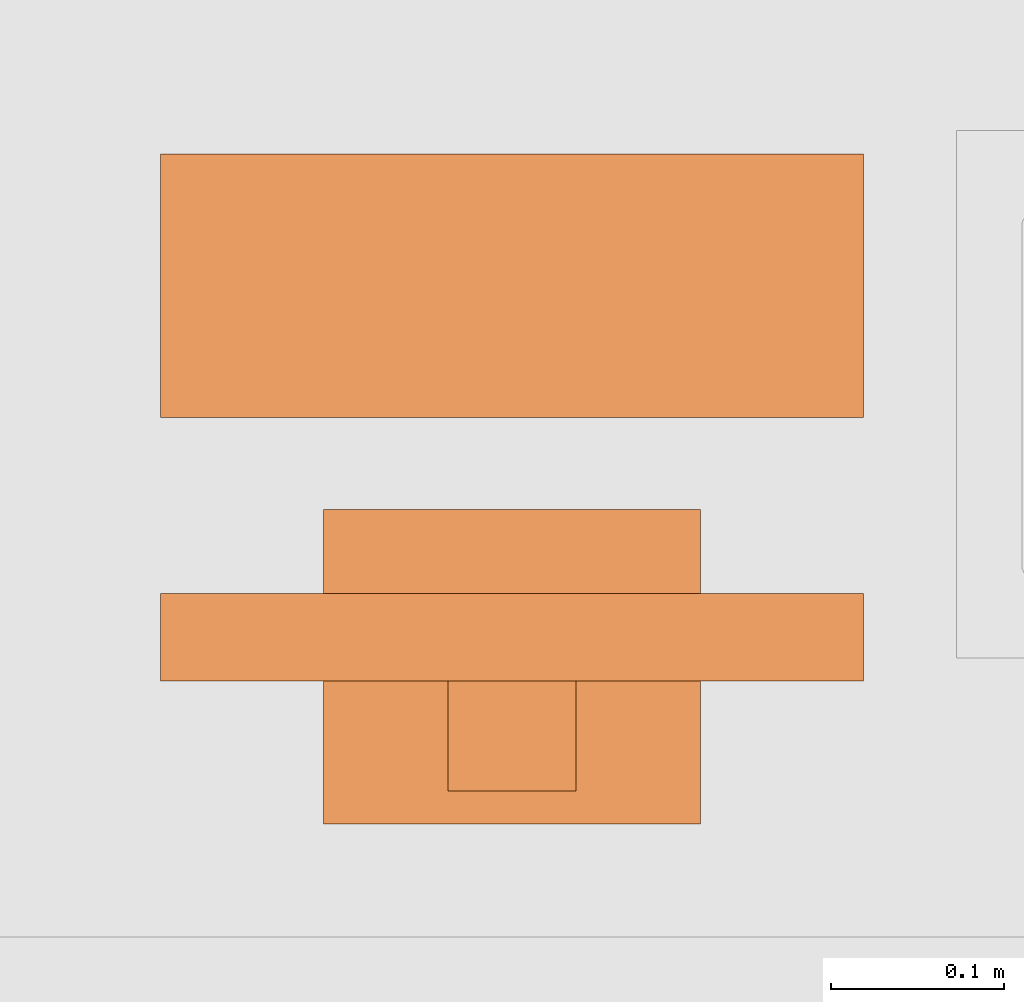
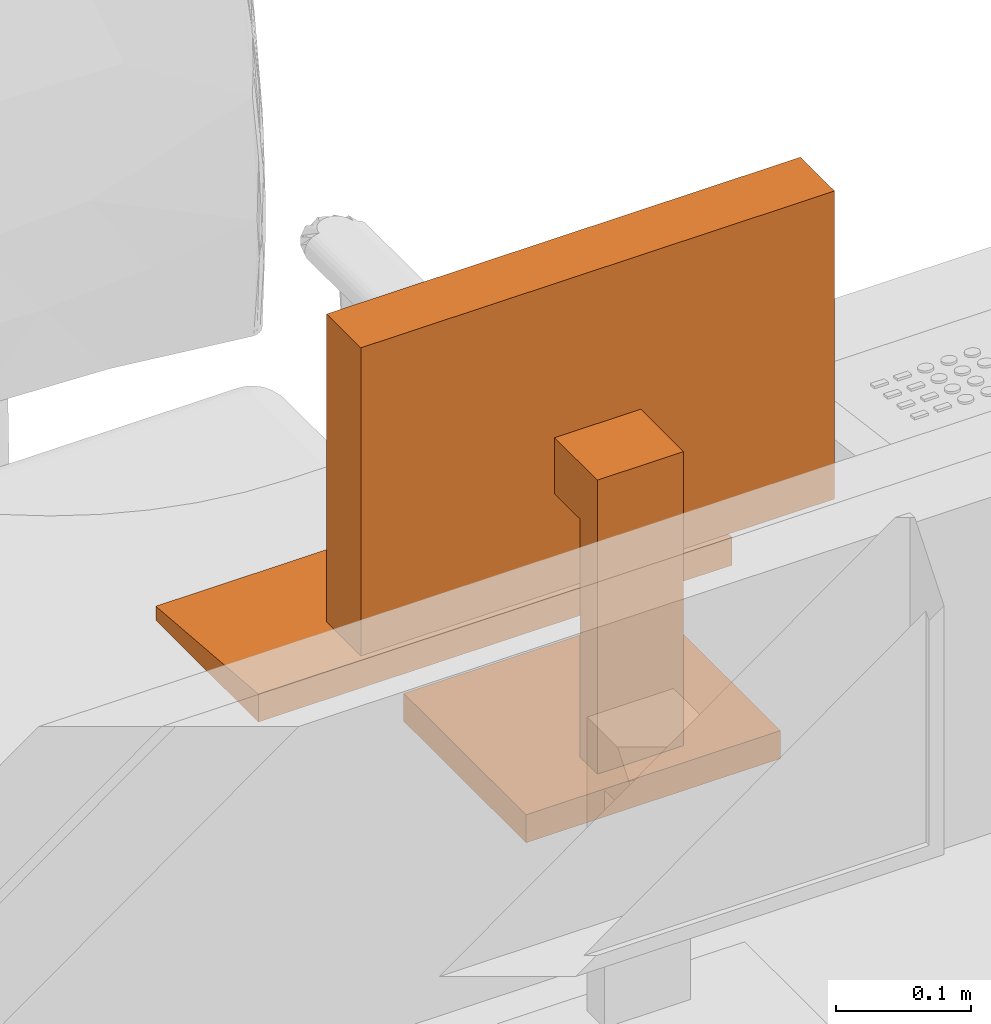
# One storey, part 98 of 142: 1 proxy.
"""IFC2X3 building model written with IfcOpenShell, lengths in feet."""

from ifc_helpers import new_model, entity, si_unit, converted_unit, derived_unit, direction, frame, origin, place, context, subcontext, project, spatial, faceted_brep, source, transform, mapped, type_object, type_shapes, element, save


model = new_model("IFC2X3")

# Units and contexts
model_context = context("Model", 3, precision=0.0001, world=origin(), true_north=direction((6.12303176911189e-17, 1.0)))
body_context = subcontext(model_context, "Body", "Model", "MODEL_VIEW")
ifc_project = project(units=[converted_unit("LENGTHUNIT", "FOOT", entity("IfcRatioMeasure", 0.3048), si_unit("LENGTHUNIT", "METRE"), dimensions=[1, 0, 0, 0, 0, 0, 0]), converted_unit("AREAUNIT", "SQUARE FOOT", entity("IfcRatioMeasure", 0.09290304), si_unit("AREAUNIT", "SQUARE_METRE"), dimensions=[2, 0, 0, 0, 0, 0, 0]), converted_unit("VOLUMEUNIT", "CUBIC FOOT", entity("IfcRatioMeasure", 0.028316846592), si_unit("VOLUMEUNIT", "CUBIC_METRE"), dimensions=[3, 0, 0, 0, 0, 0, 0]), converted_unit("PLANEANGLEUNIT", "DEGREE", entity("IfcRatioMeasure", 0.0174532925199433), si_unit("PLANEANGLEUNIT", "RADIAN"), dimensions=[0, 0, 0, 0, 0, 0, 0]), si_unit("MASSUNIT", "GRAM", prefix="KILO"), derived_unit("MASSDENSITYUNIT", [(si_unit("MASSUNIT", "GRAM", prefix="KILO"), 1), (si_unit("LENGTHUNIT", "METRE"), -3)]), si_unit("TIMEUNIT", "SECOND"), si_unit("FREQUENCYUNIT", "HERTZ"), si_unit("THERMODYNAMICTEMPERATUREUNIT", "DEGREE_CELSIUS"), derived_unit("THERMALTRANSMITTANCEUNIT", [(si_unit("MASSUNIT", "GRAM", prefix="KILO"), 1), (si_unit("THERMODYNAMICTEMPERATUREUNIT", "KELVIN"), -1), (si_unit("TIMEUNIT", "SECOND"), -3)]), derived_unit("VOLUMETRICFLOWRATEUNIT", [(si_unit("LENGTHUNIT", "METRE"), 3), (si_unit("TIMEUNIT", "SECOND"), -1)]), si_unit("ELECTRICCURRENTUNIT", "AMPERE"), si_unit("ELECTRICVOLTAGEUNIT", "VOLT"), si_unit("POWERUNIT", "WATT"), si_unit("FORCEUNIT", "NEWTON"), si_unit("ILLUMINANCEUNIT", "LUX"), si_unit("LUMINOUSFLUXUNIT", "LUMEN"), si_unit("LUMINOUSINTENSITYUNIT", "CANDELA"), derived_unit("USERDEFINED", [(si_unit("MASSUNIT", "GRAM", prefix="KILO"), -1), (si_unit("LENGTHUNIT", "METRE"), -2), (si_unit("TIMEUNIT", "SECOND"), 3), (si_unit("LUMINOUSFLUXUNIT", "LUMEN"), 1)]), derived_unit("LINEARVELOCITYUNIT", [(si_unit("LENGTHUNIT", "METRE"), 1), (si_unit("TIMEUNIT", "SECOND"), -1)]), si_unit("PRESSUREUNIT", "PASCAL"), derived_unit("USERDEFINED", [(si_unit("LENGTHUNIT", "METRE"), -2), (si_unit("MASSUNIT", "GRAM", prefix="KILO"), 1), (si_unit("TIMEUNIT", "SECOND"), -2)])], contexts=[model_context])

# Site, building, storey, space
site_placement = place(None, origin())
site = spatial("IfcSite", under=ifc_project, at=site_placement, Name="Default", CompositionType="ELEMENT")
building_placement = place(site_placement, origin())
building = spatial("IfcBuilding", under=site, at=building_placement, Name="OUTPATIENT / PACT CLINIC (Ch. 265)", CompositionType="ELEMENT")
storey_placement = place(building_placement, origin())
storey = spatial("IfcBuildingStorey", under=building, at=storey_placement, Name="LEVEL 1", CompositionType="ELEMENT", Elevation=0.0)
space_placement = place(storey_placement, origin())
space = spatial("IfcSpace", under=storey, at=space_placement, Name="WRTM1", CompositionType="ELEMENT", InteriorOrExteriorSpace="INTERNAL")

# Proxy
building_element_proxy_type = type_object("IfcBuildingElementProxyType", Name="M1801 - Computer with Flat Panel Monitor", PredefinedType="NOTDEFINED")
shared_shape = source(origin(), body_context, "Body", "Brep", [
    faceted_brep([(0.666666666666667, 0.5625, 0.0), (0.666666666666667, 0.5625, 0.0416666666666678), (0.666666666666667, 0.0624999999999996, 0.0833333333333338), (0.666666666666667, 0.0624999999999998, 0.0), (-0.666666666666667, 0.5625, 0.0), (-0.666666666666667, 0.0624999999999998, 0.0), (-0.666666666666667, 0.0624999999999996, 0.0833333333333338), (-0.666666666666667, 0.5625, 0.0416666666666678)], [[[0, 1, 2, 3]], [[4, 5, 6, 7]], [[3, 5, 4, 0]], [[2, 6, 5, 3]], [[1, 7, 6, 2]], [[0, 4, 7, 1]]]),
    faceted_brep([(0.666666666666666, -0.437223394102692, 1.41666666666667), (0.666666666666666, -0.271109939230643, 1.41666666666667), (-0.666666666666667, -0.271109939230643, 1.41666666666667), (-0.666666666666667, -0.437223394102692, 1.41666666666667), (0.666666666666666, -0.437223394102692, 0.500000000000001), (-0.666666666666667, -0.437223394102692, 0.500000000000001), (-0.666666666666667, -0.271109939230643, 0.500000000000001), (0.666666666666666, -0.271109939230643, 0.500000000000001), (-0.625, -0.271109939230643, 1.375), (-0.625, -0.271109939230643, 0.541666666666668), (0.625, -0.271109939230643, 0.541666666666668), (0.625, -0.271109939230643, 1.375), (0.625, -0.286812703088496, 1.375), (-0.625, -0.286812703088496, 1.375), (0.625, -0.286812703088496, 0.541666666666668), (-0.625, -0.286812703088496, 0.541666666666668)], [[[0, 1, 2, 3]], [[4, 5, 6, 7]], [[3, 5, 4, 0]], [[2, 6, 5, 3]], [[8, 9, 10, 11], [1, 7, 6, 2]], [[0, 4, 7, 1]], [[12, 13, 8, 11]], [[14, 10, 9, 15]], [[12, 14, 15, 13]], [[13, 15, 9, 8]], [[11, 10, 14, 12]]], outer=[[True], [True], [True], [True], [False, True], [True], [True], [True], [True], [True], [True]]),
    faceted_brep([(0.358011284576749, -0.111770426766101, 0.0833333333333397), (0.358011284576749, -0.708333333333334, 0.0833333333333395), (0.358011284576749, -0.708333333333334, 0.0), (0.358011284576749, -0.111770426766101, 0.0), (-0.358011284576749, -0.708333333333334, 0.0833333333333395), (-0.358011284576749, -0.111770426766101, 0.0833333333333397), (-0.358011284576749, -0.111770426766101, 0.0), (-0.358011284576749, -0.708333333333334, 0.0), (0.12128795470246, -0.645556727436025, 0.104166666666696), (-0.12128795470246, -0.645556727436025, 0.104166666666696), (-0.12128795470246, -0.645556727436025, 0.0833333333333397), (0.12128795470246, -0.645556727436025, 0.0833333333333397), (0.12128795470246, -0.645556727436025, 0.958333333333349), (-0.12128795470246, -0.645556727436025, 0.958333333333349), (0.12128795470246, -0.437223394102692, 0.958333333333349), (-0.12128795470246, -0.437223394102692, 0.958333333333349), (0.12128795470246, -0.437223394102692, 0.791666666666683), (-0.12128795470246, -0.437223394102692, 0.791666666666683), (0.12128795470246, -0.562223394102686, 0.791666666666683), (-0.12128795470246, -0.562223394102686, 0.791666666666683), (0.12128795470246, -0.562223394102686, 0.0833333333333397), (-0.12128795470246, -0.562223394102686, 0.0833333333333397)], [[[0, 1, 2, 3]], [[4, 5, 6, 7]], [[8, 9, 10, 11]], [[12, 13, 9, 8]], [[14, 15, 13, 12]], [[16, 17, 15, 14]], [[18, 19, 17, 16]], [[20, 21, 19, 18]], [[11, 10, 21, 20], [0, 5, 4, 1]], [[3, 6, 5, 0]], [[2, 7, 6, 3]], [[1, 4, 7, 2]], [[20, 18, 16, 14, 12, 8, 11]], [[10, 9, 13, 15, 17, 19, 21]]], outer=[[True], [True], [True], [True], [True], [True], [True], [True], [False, True], [True], [True], [True], [True], [True]]),
])
type_shapes(building_element_proxy_type, [shared_shape])
proxy_placement = place(space_placement, frame((412.110890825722, -921.547640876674, 2.49999999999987)))
element("IfcBuildingElementProxy", 1, at=proxy_placement, inside=space, type_object=building_element_proxy_type, Name="M1801 - Computer with Flat Panel Monitor:M1801 - Computer with Flat Panel Monitor", ObjectType="M1801 - Computer with Flat Panel Monitor", context=body_context, shape_type="MappedRepresentation", body=[
    mapped(shared_shape, transform((0.0, 0.0, 0.0), scale=1.0)),
])

save(model, "model.ifc")
